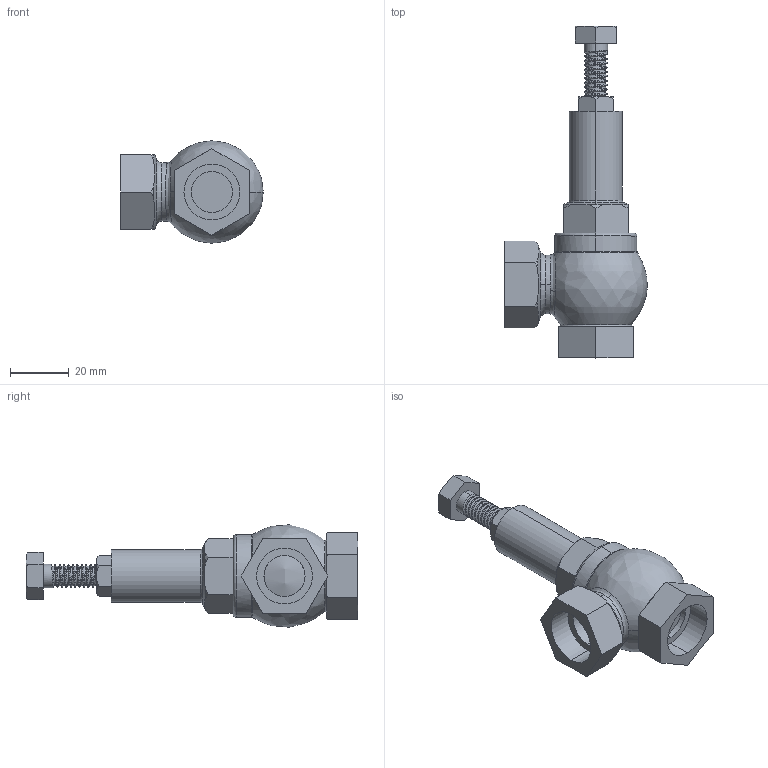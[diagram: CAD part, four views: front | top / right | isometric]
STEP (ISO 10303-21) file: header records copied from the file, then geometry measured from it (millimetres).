
FILE_DESCRIPTION (( 'STEP AP214' ), '1' );
FILE_NAME ('Êëàïàí ïðåäîõðàíèòåëüíûé TSV-15.STEP', '2026-10-08T06:35:05', ( '' ), ( '' ), 'SwSTEP 2.0', 'SolidWorks 2023', '' );
FILE_SCHEMA (( 'AUTOMOTIVE_DESIGN' ));
Length unit declared in the file: millimetre
Products named in the file (1): Клапан предохранительный TSV-15
Bounding box: 48.48 x 113 x 34.89 mm (x, y, z)
Volume: 46783.7 mm3; surface area: 12343.5 mm2
Topology: 1 solids, 1 shells, 161 faces, 431 edges, 281 vertices
Faces by surface type: cylinder 57, plane 43, cone 40, bspline 12, torus 9
Entity records: 8773 total; most frequent: CARTESIAN_POINT 5163, ORIENTED_EDGE 862, DIRECTION 630, EDGE_CURVE 431, VERTEX_POINT 281, AXIS2_PLACEMENT_3D 241, EDGE_LOOP 170, ADVANCED_FACE 161
